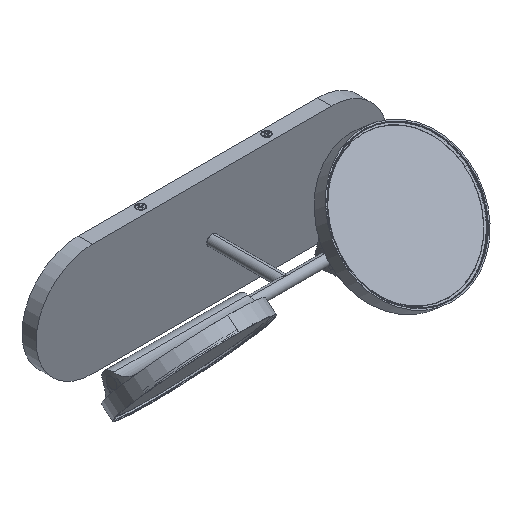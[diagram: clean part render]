
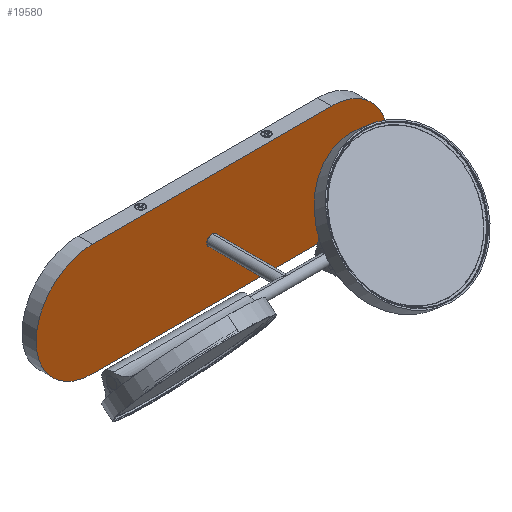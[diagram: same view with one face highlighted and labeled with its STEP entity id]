
A CAD part, isometric view. The second image highlights one B-rep face of the part: STEP entity #19580.
In plain terms, the highlighted planar face has unit normal (0, -1, 0).
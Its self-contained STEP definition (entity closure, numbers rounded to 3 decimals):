
#1432 = AXIS2_PLACEMENT_3D ( 'NONE', #15328, #15190, #36341 ) ;
#1567 = CIRCLE ( 'NONE', #3606, 4.1 ) ;
#1683 = CARTESIAN_POINT ( 'NONE',  ( 114., 0., 53.5 ) ) ;
#1767 = VERTEX_POINT ( 'NONE', #1683 ) ;
#1851 = CARTESIAN_POINT ( 'NONE',  ( -114., 0., -53.5 ) ) ;
#1854 = CARTESIAN_POINT ( 'NONE',  ( -2.683, 0., 3.1 ) ) ;
#1858 = DIRECTION ( 'NONE',  ( 1., 0., 0. ) ) ;
#1994 = CARTESIAN_POINT ( 'NONE',  ( 2.683, 0., 3.1 ) ) ;
#3503 = ORIENTED_EDGE ( 'NONE', *, *, #24339, .F. ) ;
#3606 = AXIS2_PLACEMENT_3D ( 'NONE', #22579, #10581, #10839 ) ;
#4336 = DIRECTION ( 'NONE',  ( 0., 0., 1. ) ) ;
#4452 = EDGE_CURVE ( 'NONE', #35270, #37717, #24383, .T. ) ;
#4785 = ORIENTED_EDGE ( 'NONE', *, *, #30109, .F. ) ;
#5292 = VECTOR ( 'NONE', #32202, 1000. ) ;
#5336 = CARTESIAN_POINT ( 'NONE',  ( 114., 0., 0. ) ) ;
#7937 = CIRCLE ( 'NONE', #37460, 4.1 ) ;
#9734 = VERTEX_POINT ( 'NONE', #23067 ) ;
#9927 = DIRECTION ( 'NONE',  ( -1., 0., 0. ) ) ;
#10581 = DIRECTION ( 'NONE',  ( 0., -1., 0. ) ) ;
#10596 = EDGE_CURVE ( 'NONE', #38604, #1767, #20860, .T. ) ;
#10839 = DIRECTION ( 'NONE',  ( 0., 0., 1. ) ) ;
#10901 = CARTESIAN_POINT ( 'NONE',  ( -2.683, 0., -3.1 ) ) ;
#11295 = CARTESIAN_POINT ( 'NONE',  ( -114., 0., 0. ) ) ;
#13684 = CARTESIAN_POINT ( 'NONE',  ( 114., 0., -53.5 ) ) ;
#13762 = DIRECTION ( 'NONE',  ( 0., 0., 1. ) ) ;
#13929 = EDGE_CURVE ( 'NONE', #1767, #35270, #31084, .T. ) ;
#13985 = EDGE_CURVE ( 'NONE', #37717, #38604, #35774, .T. ) ;
#14054 = EDGE_LOOP ( 'NONE', ( #20047, #4785, #23494, #3503 ) ) ;
#14470 = ORIENTED_EDGE ( 'NONE', *, *, #10596, .F. ) ;
#15190 = DIRECTION ( 'NONE',  ( 0., 1., 0. ) ) ;
#15328 = CARTESIAN_POINT ( 'NONE',  ( -114., 0., 0. ) ) ;
#16819 = PLANE ( 'NONE',  #36605 ) ;
#18593 = LINE ( 'NONE', #37472, #27578 ) ;
#19235 = ORIENTED_EDGE ( 'NONE', *, *, #13929, .F. ) ;
#19547 = VERTEX_POINT ( 'NONE', #1994 ) ;
#19580 = ADVANCED_FACE ( 'NONE', ( #24710, #34085 ), #16819, .F. ) ;
#19963 = ORIENTED_EDGE ( 'NONE', *, *, #13985, .F. ) ;
#20047 = ORIENTED_EDGE ( 'NONE', *, *, #28710, .F. ) ;
#20109 = CARTESIAN_POINT ( 'NONE',  ( -114., 0., 53.5 ) ) ;
#20489 = LINE ( 'NONE', #10901, #34550 ) ;
#20705 = CARTESIAN_POINT ( 'NONE',  ( -2.683, 0., -3.1 ) ) ;
#20860 = LINE ( 'NONE', #20109, #5292 ) ;
#21391 = ORIENTED_EDGE ( 'NONE', *, *, #4452, .F. ) ;
#22479 = DIRECTION ( 'NONE',  ( 0., -1., 0. ) ) ;
#22579 = CARTESIAN_POINT ( 'NONE',  ( 0., 0., 0. ) ) ;
#22769 = CARTESIAN_POINT ( 'NONE',  ( -114., 0., 53.5 ) ) ;
#22864 = AXIS2_PLACEMENT_3D ( 'NONE', #5336, #26399, #13762 ) ;
#23067 = CARTESIAN_POINT ( 'NONE',  ( 2.683, 0., -3.1 ) ) ;
#23494 = ORIENTED_EDGE ( 'NONE', *, *, #37664, .F. ) ;
#23567 = EDGE_LOOP ( 'NONE', ( #19963, #21391, #19235, #14470 ) ) ;
#24339 = EDGE_CURVE ( 'NONE', #38732, #32579, #7937, .T. ) ;
#24383 = LINE ( 'NONE', #24933, #30494 ) ;
#24710 = FACE_OUTER_BOUND ( 'NONE', #23567, .T. ) ;
#24933 = CARTESIAN_POINT ( 'NONE',  ( -114., 0., -53.5 ) ) ;
#25246 = CARTESIAN_POINT ( 'NONE',  ( 0., 0., 0. ) ) ;
#25790 = DIRECTION ( 'NONE',  ( 1., 0., 0. ) ) ;
#26399 = DIRECTION ( 'NONE',  ( 0., 1., 0. ) ) ;
#27578 = VECTOR ( 'NONE', #37218, 1000. ) ;
#28710 = EDGE_CURVE ( 'NONE', #19547, #38732, #18593, .T. ) ;
#30109 = EDGE_CURVE ( 'NONE', #9734, #19547, #1567, .T. ) ;
#30494 = VECTOR ( 'NONE', #9927, 1000. ) ;
#31084 = CIRCLE ( 'NONE', #22864, 53.5 ) ;
#32202 = DIRECTION ( 'NONE',  ( 1., 0., 0. ) ) ;
#32579 = VERTEX_POINT ( 'NONE', #20705 ) ;
#34085 = FACE_BOUND ( 'NONE', #14054, .T. ) ;
#34550 = VECTOR ( 'NONE', #25790, 1000. ) ;
#35270 = VERTEX_POINT ( 'NONE', #13684 ) ;
#35774 = CIRCLE ( 'NONE', #1432, 53.5 ) ;
#36341 = DIRECTION ( 'NONE',  ( 0., 0., 1. ) ) ;
#36605 = AXIS2_PLACEMENT_3D ( 'NONE', #11295, #37853, #1858 ) ;
#37218 = DIRECTION ( 'NONE',  ( -1., 0., 0. ) ) ;
#37460 = AXIS2_PLACEMENT_3D ( 'NONE', #25246, #22479, #4336 ) ;
#37472 = CARTESIAN_POINT ( 'NONE',  ( -2.683, 0., 3.1 ) ) ;
#37664 = EDGE_CURVE ( 'NONE', #32579, #9734, #20489, .T. ) ;
#37717 = VERTEX_POINT ( 'NONE', #1851 ) ;
#37853 = DIRECTION ( 'NONE',  ( 0., 1., 0. ) ) ;
#38604 = VERTEX_POINT ( 'NONE', #22769 ) ;
#38732 = VERTEX_POINT ( 'NONE', #1854 ) ;
